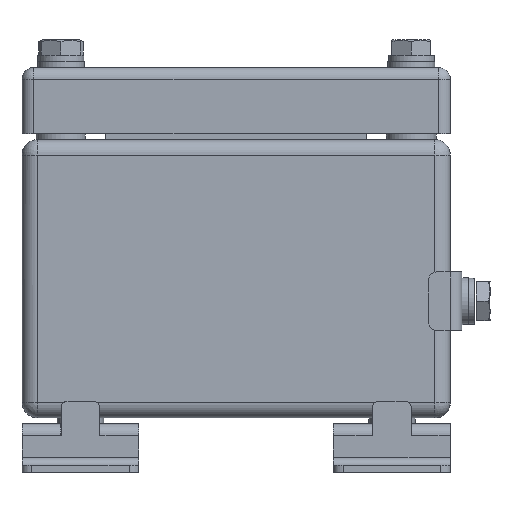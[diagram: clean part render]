
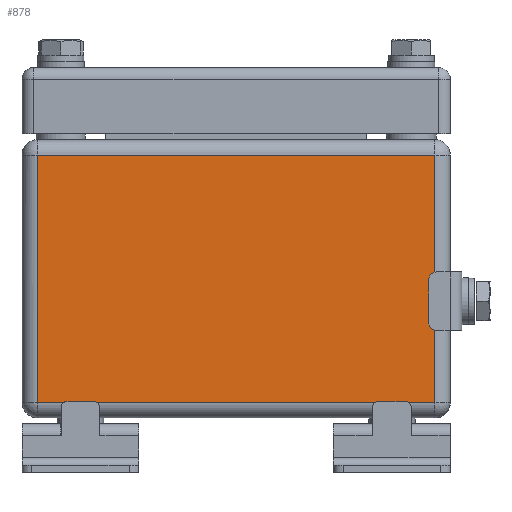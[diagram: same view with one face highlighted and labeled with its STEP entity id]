
A CAD part, front view. The second image highlights one B-rep face of the part: STEP entity #878.
In plain terms, the highlighted planar face has unit normal (0, -1, 0).
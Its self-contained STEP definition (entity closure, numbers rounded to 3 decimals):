
#342=CARTESIAN_POINT('',(51.,-55.0,67.5));
#343=VERTEX_POINT('',#342);
#436=CARTESIAN_POINT('',(51.,-55.0,4.0));
#437=VERTEX_POINT('',#436);
#492=CARTESIAN_POINT('',(51.,-55.0,67.5));
#493=DIRECTION('',(0.0,0.0,-1.0));
#494=VECTOR('',#493,63.5);
#495=LINE('',#492,#494);
#496=EDGE_CURVE('',#343,#437,#495,.T.);
#524=CARTESIAN_POINT('',(-51.,-55.0,67.5));
#525=VERTEX_POINT('',#524);
#559=CARTESIAN_POINT('',(-51.,-55.0,4.0));
#560=VERTEX_POINT('',#559);
#591=CARTESIAN_POINT('',(51.,-55.0,4.0));
#592=DIRECTION('',(-1.0,0.0,0.0));
#593=VECTOR('',#592,102.);
#594=LINE('',#591,#593);
#595=EDGE_CURVE('',#437,#560,#594,.T.);
#613=CARTESIAN_POINT('',(-51.,-55.0,4.0));
#614=DIRECTION('',(0.0,0.0,1.0));
#615=VECTOR('',#614,63.5);
#616=LINE('',#613,#615);
#617=EDGE_CURVE('',#560,#525,#616,.T.);
#650=CARTESIAN_POINT('',(-51.,-55.0,67.5));
#651=DIRECTION('',(1.0,0.0,0.0));
#652=VECTOR('',#651,102.);
#653=LINE('',#650,#652);
#654=EDGE_CURVE('',#525,#343,#653,.T.);
#867=CARTESIAN_POINT('',(55.,-55.0,0.0));
#868=DIRECTION('',(0.0,-1.0,0.0));
#869=DIRECTION('',(0.0,0.0,-1.0));
#870=AXIS2_PLACEMENT_3D('',#867,#868,#869);
#871=PLANE('',#870);
#872=ORIENTED_EDGE('',*,*,#496,.F.);
#873=ORIENTED_EDGE('',*,*,#654,.F.);
#874=ORIENTED_EDGE('',*,*,#617,.F.);
#875=ORIENTED_EDGE('',*,*,#595,.F.);
#876=EDGE_LOOP('',(#872,#873,#874,#875));
#877=FACE_OUTER_BOUND('',#876,.T.);
#878=ADVANCED_FACE('',(#877),#871,.T.);
